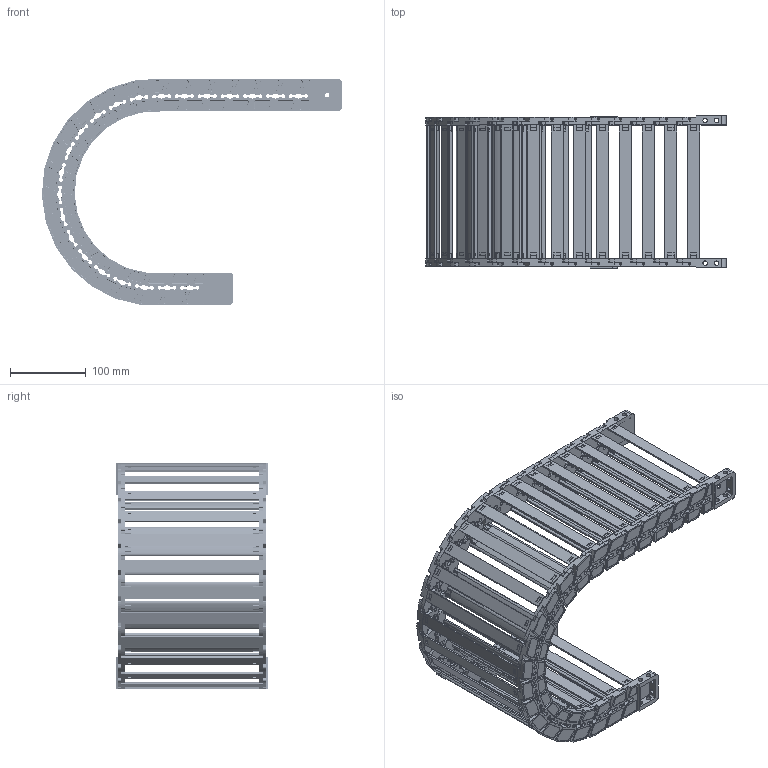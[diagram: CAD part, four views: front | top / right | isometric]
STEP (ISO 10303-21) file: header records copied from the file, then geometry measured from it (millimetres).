
FILE_DESCRIPTION((''),'2;1');
FILE_NAME('JY-35X175-R125_ASM','2026-05-04T14:34:34',('admin'),(''),'CREO PARAMETRIC BY PTC INC, 2021023','CREO PARAMETRIC BY PTC INC, 2021023','');
FILE_SCHEMA(('CONFIG_CONTROL_DESIGN'));
Length unit declared in the file: millimetre
Products named in the file (11): 35XL-L; YP; 35XL-R; ASM0001_ASM; 35-LTT-A-L; 35-LTT-A-R; 35XL-LTT-A_ASM; 35-LTT-B-L; 35-LTT-B-R; 35XL-LTT-B_ASM; JY-35X175-R125_ASM
Assembly tree (35 placements, depth 3):
  JY-35X175-R125_ASM
    ASM0001_ASM  x21
      35XL-L
      YP
      35XL-R
    35XL-LTT-A_ASM
      35-LTT-A-L
      YP  x2
      35-LTT-A-R
    35XL-LTT-B_ASM
      35-LTT-B-L
      YP  x2
      35-LTT-B-R
Bounding box: 395.09 x 200 x 298.23 mm (x, y, z)
Volume: 910985.6 mm3; surface area: 569016.4 mm2
Topology: 92 solids, 92 shells, 7504 faces, 22500 edges, 15188 vertices
Faces by surface type: plane 4246, cylinder 2466, cone 484, extrusion 176, bspline 132
Entity records: 27890 total; most frequent: CARTESIAN_POINT 6168, ORIENTED_EDGE 4640, DIRECTION 4365, EDGE_CURVE 2320, VERTEX_POINT 1568, AXIS2_PLACEMENT_3D 1474, VECTOR 1417, LINE 1401
